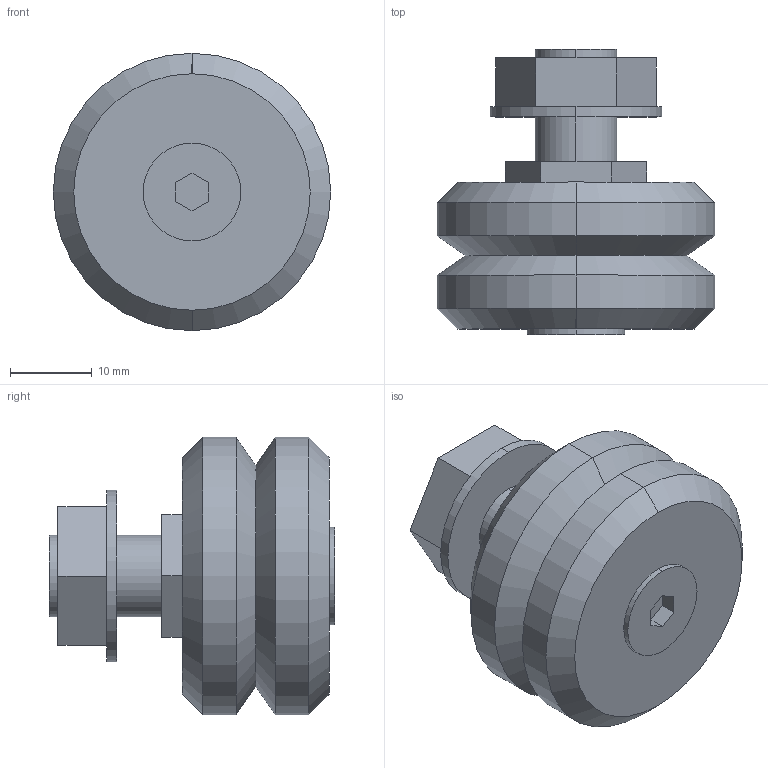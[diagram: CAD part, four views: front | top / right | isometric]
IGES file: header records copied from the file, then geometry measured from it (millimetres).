
Start section: 3D InterOp IGES (v. 2019 1.0.2), Spatial Corp. Copyright (c) 1999-2017.
Global section: file name: SS SJ34 C.igs; native system: Spatial Corp.; preprocessor: 3D InterOp GENERIC/IGES 3.0; author: Noname; organization: Noname; date: 20220628.114802; units: millimetre
Bounding box: 34 x 35 x 34 mm (x, y, z)
Surface area: 5062.1 mm2 (no closed solid volume)
Topology: 0 solids, 0 shells, 47 faces, 208 edges, 208 vertices
Faces by surface type: extrusion 27, revolution 20
